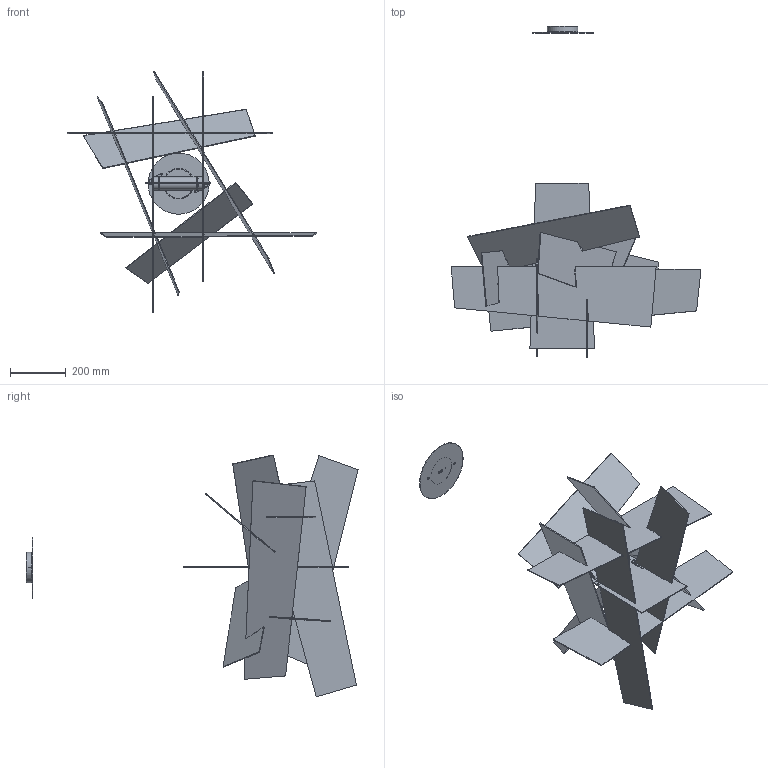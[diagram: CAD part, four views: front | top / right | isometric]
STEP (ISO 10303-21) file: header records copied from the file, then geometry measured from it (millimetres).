
FILE_DESCRIPTION (( 'STEP AP214' ), '1' );
FILE_NAME ('151_STD_S_LD_3D.STEP', '2021-05-20T11:02:16', ( '' ), ( '' ), 'SwSTEP 2.0', 'SolidWorks 2021', '' );
FILE_SCHEMA (( 'AUTOMOTIVE_DESIGN' ));
Length unit declared in the file: millimetre
Products named in the file (1): 151_STD_S_LD_3D
Bounding box: 899.59 x 1195.84 x 871.04 mm (x, y, z)
Volume: 3500889.1 mm3; surface area: 2449649.9 mm2
Topology: 42 solids, 42 shells, 1222 faces, 3196 edges, 2086 vertices
Faces by surface type: plane 565, cylinder 499, torus 100, cone 42, sphere 16
Entity records: 53423 total; most frequent: CARTESIAN_POINT 8401, DIRECTION 6752, ORIENTED_EDGE 6392, EDGE_CURVE 3196, AXIS2_PLACEMENT_3D 2501, VERTEX_POINT 2086, LINE 1750, VECTOR 1750
